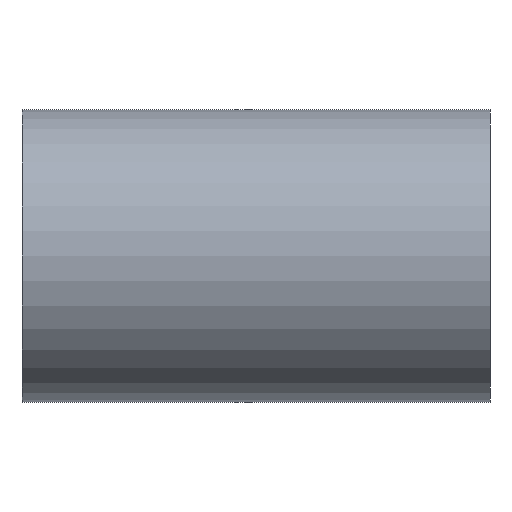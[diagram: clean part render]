
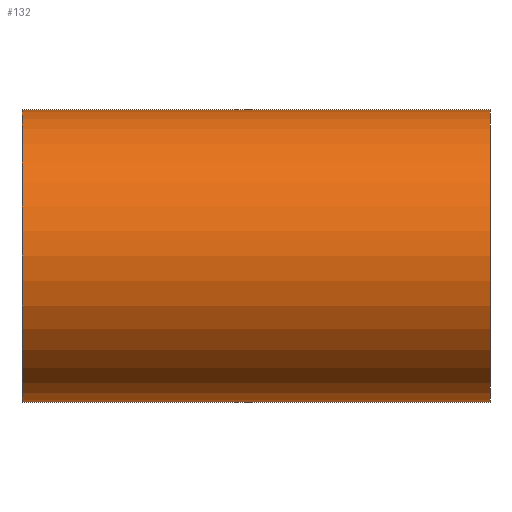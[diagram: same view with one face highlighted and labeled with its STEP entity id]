
A CAD part, front view. The second image highlights one B-rep face of the part: STEP entity #132.
In plain terms, the highlighted cylindrical face has radius 500 mm (diameter 1000 mm), a partial arc.
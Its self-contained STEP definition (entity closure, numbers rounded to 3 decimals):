
#132=ADVANCED_FACE('',(#260),#261,.T.);
#260=FACE_OUTER_BOUND('',#415,.T.);
#261=CYLINDRICAL_SURFACE('',#416,500.0);
#415=EDGE_LOOP('',(#739,#740,#741,#742));
#416=AXIS2_PLACEMENT_3D('',#743,#744,#745);
#739=ORIENTED_EDGE('',*,*,#827,.T.);
#740=ORIENTED_EDGE('',*,*,#968,.F.);
#741=ORIENTED_EDGE('',*,*,#829,.T.);
#742=ORIENTED_EDGE('',*,*,#969,.F.);
#743=CARTESIAN_POINT('',(0.0,0.0,0.0));
#744=DIRECTION('',(1.0,0.0,0.0));
#745=DIRECTION('',(0.0,0.0,-1.0));
#827=EDGE_CURVE('',#973,#974,#975,.T.);
#829=EDGE_CURVE('',#978,#976,#979,.T.);
#968=EDGE_CURVE('',#978,#974,#1186,.T.);
#969=EDGE_CURVE('',#973,#976,#1187,.T.);
#973=VERTEX_POINT('',#1191);
#974=VERTEX_POINT('',#1192);
#975=LINE('',#1193,#1194);
#976=VERTEX_POINT('',#1195);
#978=VERTEX_POINT('',#1197);
#979=LINE('',#1198,#1199);
#1186=CIRCLE('',#1440,500.0);
#1187=CIRCLE('',#1441,500.0);
#1191=CARTESIAN_POINT('',(-800.0,0.0,-500.0));
#1192=CARTESIAN_POINT('',(800.0,0.0,-500.0));
#1193=CARTESIAN_POINT('',(0.0,0.,-500.0));
#1194=VECTOR('',#1444,1.0);
#1195=CARTESIAN_POINT('',(-800.0,0.,500.0));
#1197=CARTESIAN_POINT('',(800.0,0.,500.0));
#1198=CARTESIAN_POINT('',(0.0,0.,500.0));
#1199=VECTOR('',#1448,1.0);
#1440=AXIS2_PLACEMENT_3D('',#1690,#1691,#1692);
#1441=AXIS2_PLACEMENT_3D('',#1693,#1694,#1695);
#1444=DIRECTION('',(1.0,0.0,0.0));
#1448=DIRECTION('',(-1.0,-0.0,-0.0));
#1690=CARTESIAN_POINT('',(800.0,0.0,0.0));
#1691=DIRECTION('',(1.0,0.0,0.0));
#1692=DIRECTION('',(0.0,0.0,-1.0));
#1693=CARTESIAN_POINT('',(-800.0,0.0,0.0));
#1694=DIRECTION('',(-1.0,0.0,0.0));
#1695=DIRECTION('',(0.0,0.0,-1.0));
